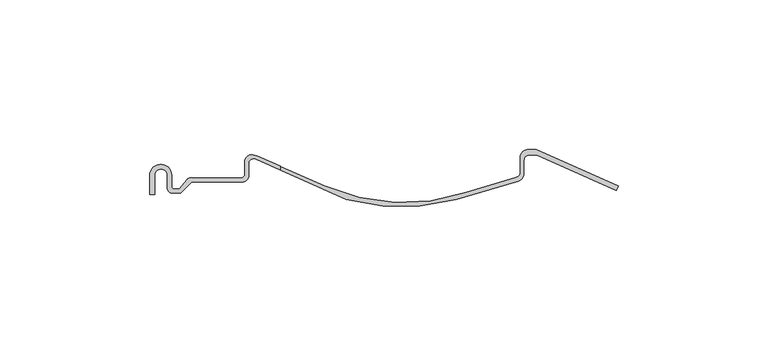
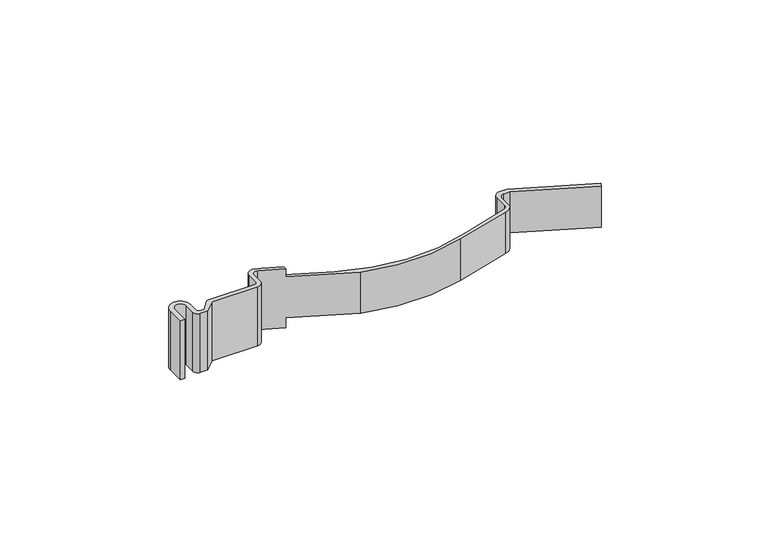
"""IFC4 building model written with IfcOpenShell, lengths in millimetres: cable carrier fitting geometry, BAKS_SUB_KS_CONN_Snap-In Connector with lock_ZLSN : ZLSN."""

import ifcopenshell
import ifcopenshell.guid

model = None  # the IFC model being written
_history = None  # IfcOwnerHistory: only IFC2X3 demands one
_inside = {}  # id of a spatial element -> (the spatial element, [elements in it])
_under = {}  # id of a project, library or spatial element -> (it, [spatial elements below it])
_declared = {}  # id of a project -> (the project, [libraries it declares])
_typed = {}  # id of a type object -> (the type object, [elements of that type])
_made_of = {}  # id of a material, layer set ... -> (it, [elements and type objects made of it])


def new_model(schema):
    """Start an empty IFC model of exactly this schema.

    Asked for "IFC4X3", IfcOpenShell would pick the latest addendum, in which some entities
    have other attributes; the version numbers below select the first issue.
    IFC2X3 requires an IfcOwnerHistory on every rooted entity: one is made here for all.
    """
    global model, _history
    if schema == "IFC4X3":
        model = ifcopenshell.file(schema_version=(4, 3, 0, 0))
    else:
        model = ifcopenshell.file(schema=schema)
    _inside.clear()
    _under.clear()
    _declared.clear()
    _typed.clear()
    _made_of.clear()
    _history = None
    if model.schema == "IFC2X3":
        org = make("IfcOrganization", Name="unknown")
        user = make(
            "IfcPersonAndOrganization",
            ThePerson=make("IfcPerson", FamilyName="unknown"),
            TheOrganization=org,
        )
        app = make(
            "IfcApplication",
            ApplicationDeveloper=org,
            Version="unknown",
            ApplicationFullName="unknown",
            ApplicationIdentifier="unknown",
        )
        _history = make(
            "IfcOwnerHistory",
            OwningUser=user,
            OwningApplication=app,
            ChangeAction="ADDED",
            CreationDate=0,
        )
    return model


def make(cls, **values):
    """One entity of the class cls with the attributes given. An attribute that is None is left unset."""
    return model.create_entity(
        cls, **{name: value for name, value in values.items() if value is not None}
    )


def rooted(cls, **values):
    """An entity with a GlobalId (a new one), such as an element, a storey or a relation."""
    return make(cls, GlobalId=ifcopenshell.guid.new(), OwnerHistory=_history, **values)


def si_unit(unit_type, name, prefix=None):
    """IfcSIUnit, for example si_unit("LENGTHUNIT", "METRE", prefix="MILLI")."""
    return make("IfcSIUnit", UnitType=unit_type, Prefix=prefix, Name=name)


def assignment(units):
    """IfcUnitAssignment: the units of a project."""
    return None if units is None else make("IfcUnitAssignment", Units=units)


def point(xyz):
    """IfcCartesianPoint."""
    return None if xyz is None else make("IfcCartesianPoint", Coordinates=xyz)


def direction(xyz):
    """IfcDirection."""
    return None if xyz is None else make("IfcDirection", DirectionRatios=xyz)


def frame(location, z_axis=None, x_axis=None):
    """IfcAxis2Placement3D, a coordinate frame: its origin and axes. An axis left out is left unset."""
    return make(
        "IfcAxis2Placement3D",
        Location=point(location),
        Axis=direction(z_axis),
        RefDirection=direction(x_axis),
    )


def origin():
    """The frame at (0, 0, 0) with its axes left unset."""
    return frame((0.0, 0.0, 0.0))


def place(relative_to, where):
    """IfcLocalPlacement: puts the frame where relative to a parent placement (None: the world)."""
    return make(
        "IfcLocalPlacement", PlacementRelTo=relative_to, RelativePlacement=where
    )


def context(
    kind, dimensions, precision=None, world=None, true_north=None, identifier=None
):
    """IfcGeometricRepresentationContext, for example the 3D "Model" context."""
    return make(
        "IfcGeometricRepresentationContext",
        ContextIdentifier=identifier,
        ContextType=kind,
        CoordinateSpaceDimension=dimensions,
        Precision=precision,
        WorldCoordinateSystem=world,
        TrueNorth=true_north,
    )


def project(units=None, contexts=None):
    """IfcProject with its units and contexts."""
    return rooted(
        "IfcProject",
        Name="project",
        RepresentationContexts=contexts,
        UnitsInContext=assignment(units),
    )


def spatial(cls, under=None, at=None, **own):
    """A site, building, storey or space (cls), placed at a placement, below another one or the project."""
    s = rooted(cls, ObjectPlacement=at, **own)
    if under is not None:
        _under.setdefault(under.id(), (under, []))[1].append(s)
    return s


def polyline(points):
    """IfcPolyline through the points."""
    return make("IfcPolyline", Points=[point(p) for p in points])


def circle_curve(where, radius):
    """IfcCircle in the frame where."""
    return make("IfcCircle", Position=where, Radius=radius)


def shape(context_of_items, identifier, shape_type, items):
    """IfcShapeRepresentation: the items that make up one representation, for example the "Body"."""
    return make(
        "IfcShapeRepresentation",
        ContextOfItems=context_of_items,
        RepresentationIdentifier=identifier,
        RepresentationType=shape_type,
        Items=items,
    )


def source(mapping_origin, context_of_items, identifier, shape_type, items):
    """IfcRepresentationMap: a shape defined once, which mapped items show again and again."""
    return make(
        "IfcRepresentationMap",
        MappingOrigin=mapping_origin,
        MappedRepresentation=shape(context_of_items, identifier, shape_type, items),
    )


def transform(
    local_origin,
    x_axis=None,
    y_axis=None,
    z_axis=None,
    scale=None,
    scale2=None,
    scale3=None,
    uniform=True,
):
    """IfcCartesianTransformationOperator3D, or its non-uniform kind. x_axis, y_axis, z_axis: its Axis1, 2, 3."""
    if uniform:
        return make(
            "IfcCartesianTransformationOperator3D",
            Axis1=direction(x_axis),
            Axis2=direction(y_axis),
            LocalOrigin=point(local_origin),
            Scale=scale,
            Axis3=direction(z_axis),
        )
    return make(
        "IfcCartesianTransformationOperator3DnonUniform",
        Axis1=direction(x_axis),
        Axis2=direction(y_axis),
        LocalOrigin=point(local_origin),
        Scale=scale,
        Axis3=direction(z_axis),
        Scale2=scale2,
        Scale3=scale3,
    )


def mapped(mapping_source, mapping_target):
    """IfcMappedItem: shows the shape of a source again, moved by a transform."""
    return make(
        "IfcMappedItem", MappingSource=mapping_source, MappingTarget=mapping_target
    )


def made_of(thing, what):
    """Note that an element or type object is made of a material, layer set ...; save() writes the relation."""
    if what is not None:
        _made_of.setdefault(what.id(), (what, []))[1].append(thing)
    return thing


def element(
    cls,
    number,
    at=None,
    inside=None,
    cuts=None,
    type_object=None,
    material=None,
    context=None,
    identifier="Body",
    shape_type=None,
    held_by="IfcProductDefinitionShape",
    body=None,
    shapes=None,
    **own,
):
    """One element of the class cls, such as IfcWall. Its Tag is "e" and its number.

    at: its placement. inside: the storey or other place that contains it. cuts: it is an
    opening in that element (IfcRelVoidsElement). A single representation is given by context,
    identifier, shape_type and body (its items); several are given by shapes. held_by: the class
    of the entity that holds the representations. save() writes the other relations.
    """
    e = rooted(cls, Tag="e%d" % number, ObjectPlacement=at, **own)
    if body is not None:
        shapes = [shape(context, identifier, shape_type, body)]
    if shapes is not None:
        e.Representation = make(held_by, Representations=shapes)
    if inside is not None:
        _inside.setdefault(inside.id(), (inside, []))[1].append(e)
    if cuts is not None:
        rooted(
            "IfcRelVoidsElement", RelatingBuildingElement=cuts, RelatedOpeningElement=e
        )
    if type_object is not None:
        _typed.setdefault(type_object.id(), (type_object, []))[1].append(e)
    return made_of(e, material)


def aggregate(whole, parts):
    """IfcRelAggregates: a whole, such as a stair, and the parts it consists of."""
    return rooted("IfcRelAggregates", RelatingObject=whole, RelatedObjects=parts)


def save(model, path):
    """Write the relations noted so far, then the file.

    IfcRelAggregates (storeys below a building ...), IfcRelContainedInSpatialStructure (elements
    in a storey), IfcRelDefinesByType, IfcRelAssociatesMaterial and IfcRelDeclares: one each for
    every whole, place, type object, material and project.
    """
    for whole, parts in _under.values():
        aggregate(whole, parts)
    for where, things in _inside.values():
        rooted(
            "IfcRelContainedInSpatialStructure",
            RelatedElements=things,
            RelatingStructure=where,
        )
    for kind, things in _typed.values():
        rooted("IfcRelDefinesByType", RelatedObjects=things, RelatingType=kind)
    for what, things in _made_of.values():
        rooted("IfcRelAssociatesMaterial", RelatedObjects=things, RelatingMaterial=what)
    for by, libraries in _declared.values():
        rooted("IfcRelDeclares", RelatingContext=by, RelatedDefinitions=libraries)
    model.write(path)


def plane_surface(at):
    """IfcPlane: the flat surface through the origin of the frame at, square to its z axis."""
    return make("IfcPlane", Position=at)


def cylinder_surface(at, radius):
    """IfcCylindricalSurface: all points at the distance radius from the z axis of the frame at."""
    return make("IfcCylindricalSurface", Position=at, Radius=radius)


def revolved_surface(curve, axis_point, axis_direction):
    """IfcSurfaceOfRevolution: the curve turned about the line through axis_point along axis_direction."""
    return make(
        "IfcSurfaceOfRevolution",
        SweptCurve=make("IfcArbitraryOpenProfileDef", ProfileType="CURVE", Curve=curve),
        AxisPosition=make("IfcAxis1Placement", Location=point(axis_point), Axis=direction(axis_direction)),
    )


def advanced_brep(points, edges, surfaces, faces):
    """IfcAdvancedBrep: a solid bounded by faces that lie on surfaces and meet in shared edges.

    An edge is (start, end): straight between two places in points (the first is 0);
    or (start, end, curve); or (start, end, curve, False) where it runs against its curve.
    A face is (place in surfaces, loops), or (place, loops, False) where it looks against
    its surface's normal. A loop lists edges by number (the first is 1), with a minus sign
    where the edge is run from its end to its start. The first loop is the outer one.
    """
    corners = [point(p) for p in points]
    vertices = [make("IfcVertexPoint", VertexGeometry=c) for c in corners]
    made = []
    for start, end, *more in edges:
        made.append(
            make(
                "IfcEdgeCurve",
                EdgeStart=vertices[start],
                EdgeEnd=vertices[end],
                EdgeGeometry=more[0] if more else make("IfcPolyline", Points=[corners[start], corners[end]]),
                SameSense=more[1] if len(more) > 1 else True,
            )
        )
    hull = []
    for where, loops, *sense in faces:
        bounds = []
        for j, loop in enumerate(loops):
            ring = [make("IfcOrientedEdge", EdgeElement=made[abs(k) - 1], Orientation=k > 0) for k in loop]
            bounds.append(
                make(
                    "IfcFaceOuterBound" if j == 0 else "IfcFaceBound",
                    Bound=make("IfcEdgeLoop", EdgeList=ring),
                    Orientation=True,
                )
            )
        hull.append(make("IfcAdvancedFace", Bounds=bounds, FaceSurface=surfaces[where], SameSense=sense[0] if sense else True))
    return make("IfcAdvancedBrep", Outer=make("IfcClosedShell", CfsFaces=hull))


def cable_carrier_fitting_d8d59c14(model_context):
    return source(origin(), model_context, "Body", "AdvancedBrep", [
        advanced_brep(
        [(-16.2774234, 0.0, 23.0), (-16.2774234, -6.4382348, 23.0), (-14.5784096, -6.4382348, 23.0), (-14.5784096, 0.0, 23.0), (-10.3961789, 0.0, 23.0), (-10.3961789, -4.1822307, 23.0), (-8.6233423, -5.9550673, 23.0), (-5.8416797, -5.9550673, 23.0), (-2.1716987, -2.2850863, 23.0), (14.5546679, -2.2850863, 23.0), (16.8397542, 0.0, 23.0), (16.8397542, 4.1437746, 23.0), (19.1421404, 5.4730579, 23.0), (27.3907936, 1.8005209, 23.0), (27.3907936, 3.0539849, 23.0), (20.816871, 5.9808838, 23.0), (18.4093307, 6.8571568, 23.0), (15.4425675, 4.4547194, 23.0), (15.4425675, 0.0, 23.0), (14.2746658, -0.8177736, 23.0), (-2.0, -0.8177736, 23.0), (-3.9340293, -1.5217027, 23.0), (-6.3698528, -4.5296943, 23.0), (-8.1099927, -4.5296943, 23.0), (-8.8958623, -3.7438247, 23.0), (-8.8958623, 0.0, 23.0), (-16.2774234, 0.0, 0.0), (-8.8958623, 0.0, 0.0), (-8.8958623, -3.7438247, 0.0), (-8.1099927, -4.5296943, 0.0), (-6.3698528, -4.5296943, 0.0), (-3.9340293, -1.5217027, 0.0), (-2.0, -0.8177736, 0.0), (14.2746658, -0.8177736, 0.0), (15.4425675, 0.0, 0.0), (15.4425675, 4.4547194, 0.0), (18.4093307, 6.8571568, 0.0), (20.816871, 5.9808838, 0.0), (27.3907936, 3.0539849, 0.0), (27.3907936, 1.8005209, 0.0), (19.1421404, 5.4730579, 0.0), (16.8397542, 4.1437746, 0.0), (16.8397542, 0.0, 0.0), (14.5546679, -2.2850863, 0.0), (-2.1716987, -2.2850863, 0.0), (-5.8416797, -5.9550673, 0.0), (-8.6233423, -5.9550673, 0.0), (-10.3961789, -4.1822307, 0.0), (-10.3961789, 0.0, 0.0), (-14.5784096, 0.0, 0.0), (-14.5784096, -6.4382348, 0.0), (-16.2774234, -6.4382348, 0.0), (27.3907936, 3.0539849, 20.0), (42.3105217, -3.588706, 20.0), (42.3105217, -3.588706, 4.0), (27.3907936, 3.0539849, 4.0), (89.2907665, -5.7499431, 20.0), (89.2907665, -5.7499431, 4.0), (106.0239398, -0.6340987, 20.0), (106.0239398, -0.6340987, 4.0), (107.5376936, 0.8796552, 20.0), (107.5376936, 0.8796552, 4.0), (107.5376936, 5.8796552, 20.0), (107.5376936, 5.8796552, 4.0), (111.0313468, 8.6091962, 20.0), (111.0313468, 8.6091962, 4.0), (112.9468571, 8.6091962, 20.0), (112.9468571, 8.6091962, 4.0), (140.3532208, -3.5929031, 20.0), (140.3532208, -3.5929031, 4.0), (139.6834326, -5.0972722, 20.0), (139.6834326, -5.0972722, 4.0), (113.0175646, 6.7751372, 20.0), (113.0175646, 6.7751372, 4.0), (110.5224489, 6.7751372, 20.0), (110.5224489, 6.7751372, 4.0), (108.7935168, 5.046205, 20.0), (108.7935168, 5.046205, 4.0), (108.7935168, 0.0, 20.0), (108.7935168, 0.0, 4.0), (106.1107616, -2.2510989, 20.0), (106.1107616, -2.2510989, 4.0), (86.1480477, -7.975315, 20.0), (86.1480477, -7.975315, 4.0), (49.3476804, -7.975315, 20.0), (49.3476804, -7.975315, 4.0), (27.3907936, 1.8005209, 4.0), (27.3907936, 1.8005209, 20.0)],
        [
            (0, 1),
            (1, 2),
            (2, 3),
            (3, 4, circle_curve(frame((-12.4872942, 0.0, 23.0), z_axis=(0.0, 0.0, -1.0), x_axis=(1.0, 0.0, 0.0)), 2.0911154)),
            (4, 5),
            (5, 6, circle_curve(frame((-8.6233423, -4.1822307, 23.0), z_axis=(0.0, 0.0, 1.0), x_axis=(1.0, 0.0, 0.0)), 1.7728365)),
            (6, 7),
            (7, 8),
            (8, 9),
            (9, 10, circle_curve(frame((14.5546679, 0.0, 23.0), z_axis=(0.0, 0.0, 1.0), x_axis=(1.0, 0.0, 0.0)), 2.2850863)),
            (10, 11),
            (11, 12, circle_curve(frame((18.4738377, 3.9720255, 23.0), z_axis=(0.0, 0.0, -1.0), x_axis=(1.0, 0.0, 0.0)), 1.6430845)),
            (12, 13),
            (13, 14),
            (14, 15),
            (15, 16, circle_curve(frame((16.4955977, -2.1462494, 23.0), z_axis=(0.0, 0.0, 1.0), x_axis=(1.0, 0.0, 0.0)), 9.2045477)),
            (16, 17, circle_curve(frame((17.8986769, 4.4547194, 23.0), z_axis=(0.0, 0.0, 1.0), x_axis=(1.0, 0.0, 0.0)), 2.4561094)),
            (17, 18),
            (18, 19, circle_curve(frame((14.2746658, 0.4250815, 23.0), z_axis=(0.0, 0.0, -1.0), x_axis=(1.0, 0.0, 0.0)), 1.2428551)),
            (19, 20),
            (20, 21, circle_curve(frame((-2.3812473, -2.7791207, 23.0), z_axis=(0.0, 0.0, 1.0), x_axis=(1.0, 0.0, 0.0)), 1.9980571)),
            (21, 22),
            (22, 23),
            (23, 24, circle_curve(frame((-8.1099927, -3.7438247, 23.0), z_axis=(0.0, 0.0, -1.0), x_axis=(1.0, 0.0, 0.0)), 0.7858696)),
            (24, 25),
            (25, 0, circle_curve(frame((-12.5866428, 0.0, 23.0), z_axis=(0.0, 0.0, 1.0), x_axis=(1.0, 0.0, 0.0)), 3.6907805)),
            (26, 27, circle_curve(frame((-12.5866428, 0.0, 0.0), z_axis=(0.0, 0.0, -1.0), x_axis=(1.0, 0.0, 0.0)), 3.6907805)),
            (27, 28),
            (28, 29, circle_curve(frame((-8.1099927, -3.7438247, 0.0), z_axis=(0.0, 0.0, 1.0), x_axis=(1.0, 0.0, 0.0)), 0.7858696)),
            (29, 30),
            (30, 31),
            (31, 32, circle_curve(frame((-2.3812473, -2.7791207, 0.0), z_axis=(0.0, 0.0, -1.0), x_axis=(1.0, 0.0, 0.0)), 1.9980571)),
            (32, 33),
            (33, 34, circle_curve(frame((14.2746658, 0.4250815, 0.0), z_axis=(0.0, 0.0, 1.0), x_axis=(1.0, 0.0, 0.0)), 1.2428551)),
            (34, 35),
            (35, 36, circle_curve(frame((17.8986769, 4.4547194, 0.0), z_axis=(0.0, 0.0, -1.0), x_axis=(1.0, 0.0, 0.0)), 2.4561094)),
            (36, 37, circle_curve(frame((16.4955977, -2.1462494, 0.0), z_axis=(0.0, 0.0, -1.0), x_axis=(1.0, 0.0, 0.0)), 9.2045477)),
            (37, 38),
            (38, 39),
            (39, 40),
            (40, 41, circle_curve(frame((18.4738377, 3.9720255, 0.0), z_axis=(0.0, 0.0, 1.0), x_axis=(1.0, 0.0, 0.0)), 1.6430845)),
            (41, 42),
            (42, 43, circle_curve(frame((14.5546679, 0.0, 0.0), z_axis=(0.0, 0.0, -1.0), x_axis=(1.0, 0.0, 0.0)), 2.2850863)),
            (43, 44),
            (44, 45),
            (45, 46),
            (46, 47, circle_curve(frame((-8.6233423, -4.1822307, 0.0), z_axis=(0.0, 0.0, -1.0), x_axis=(1.0, 0.0, 0.0)), 1.7728365)),
            (47, 48),
            (48, 49, circle_curve(frame((-12.4872942, 0.0, 0.0), z_axis=(0.0, 0.0, 1.0), x_axis=(1.0, 0.0, 0.0)), 2.0911154)),
            (49, 50),
            (50, 51),
            (51, 26),
            (25, 27),
            (26, 0),
            (24, 28),
            (23, 29),
            (22, 30),
            (21, 31),
            (20, 32),
            (19, 33),
            (18, 34),
            (17, 35),
            (16, 36),
            (15, 37),
            (14, 52),
            (52, 53),
            (53, 54),
            (54, 55),
            (55, 38),
            (53, 56, circle_curve(frame((68.5628712, 55.3750364, 20.0), z_axis=(0.0, 0.0, 1.0), x_axis=(1.0, 0.0, 0.0)), 64.5438515)),
            (56, 57),
            (57, 54, circle_curve(frame((68.5628712, 55.3750364, 4.0), z_axis=(0.0, 0.0, -1.0), x_axis=(1.0, 0.0, 0.0)), 64.5438515)),
            (56, 58),
            (58, 59),
            (59, 57),
            (58, 60, circle_curve(frame((106.0239398, 0.8796552, 20.0), z_axis=(0.0, 0.0, 1.0), x_axis=(1.0, 0.0, 0.0)), 1.5137539)),
            (60, 61),
            (61, 59, circle_curve(frame((106.0239398, 0.8796552, 4.0), z_axis=(0.0, 0.0, -1.0), x_axis=(1.0, 0.0, 0.0)), 1.5137539)),
            (60, 62),
            (62, 63),
            (63, 61),
            (62, 64, circle_curve(frame((110.3507958, 5.8796552, 20.0), z_axis=(0.0, 0.0, -1.0), x_axis=(1.0, 0.0, 0.0)), 2.8131022)),
            (64, 65),
            (65, 63, circle_curve(frame((110.3507958, 5.8796552, 4.0), z_axis=(0.0, 0.0, 1.0), x_axis=(1.0, 0.0, 0.0)), 2.8131022)),
            (64, 66),
            (66, 67),
            (67, 65),
            (66, 68),
            (68, 69),
            (69, 67),
            (68, 70),
            (70, 71),
            (71, 69),
            (70, 72),
            (72, 73),
            (73, 71),
            (72, 74),
            (74, 75),
            (75, 73),
            (74, 76, circle_curve(frame((110.5224489, 5.046205, 20.0), z_axis=(0.0, 0.0, 1.0), x_axis=(1.0, 0.0, 0.0)), 1.7289322)),
            (76, 77),
            (77, 75, circle_curve(frame((110.5224489, 5.046205, 4.0), z_axis=(0.0, 0.0, -1.0), x_axis=(1.0, 0.0, 0.0)), 1.7289322)),
            (76, 78),
            (78, 79),
            (79, 77),
            (78, 80, circle_curve(frame((105.2532157, 1.4950256, 20.0), z_axis=(0.0, 0.0, -1.0), x_axis=(1.0, 0.0, 0.0)), 3.843024)),
            (80, 81),
            (81, 79, circle_curve(frame((105.2532157, 1.4950256, 4.0), z_axis=(0.0, 0.0, 1.0), x_axis=(1.0, 0.0, 0.0)), 3.843024)),
            (80, 82),
            (82, 83),
            (83, 81),
            (82, 84, circle_curve(frame((67.747864, 56.1937513, 20.0), z_axis=(0.0, 0.0, -1.0), x_axis=(1.0, 0.0, 0.0)), 66.7550434)),
            (84, 85),
            (85, 83, circle_curve(frame((67.747864, 56.1937513, 4.0), z_axis=(0.0, 0.0, 1.0), x_axis=(1.0, 0.0, 0.0)), 66.7550434)),
            (39, 86),
            (86, 85),
            (84, 87),
            (87, 13),
            (12, 40),
            (11, 41),
            (10, 42),
            (9, 43),
            (8, 44),
            (7, 45),
            (6, 46),
            (5, 47),
            (4, 48),
            (3, 49),
            (2, 50),
            (1, 51),
            (87, 52),
            (86, 55),
        ],
        [
            plane_surface(frame((-8.8958623, 0.0, 23.0), z_axis=(0.0, 0.0, 1.0), x_axis=(0.0, -1.0, 0.0))),
            plane_surface(frame((-8.8958623, 0.0, 0.0), z_axis=(0.0, 0.0, -1.0), x_axis=(0.0, 1.0, 0.0))),
            cylinder_surface(frame((-12.5866428, 0.0, 0.0), z_axis=(0.0, 0.0, 1.0), x_axis=(1.0, 0.0, 0.0)), 3.6907805),
            plane_surface(frame((-8.8958623, 0.0, 23.0), z_axis=(1.0, 0.0, 0.0), x_axis=(0.0, 0.0, -1.0))),
            revolved_surface(polyline([(-7.3241230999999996, -3.7438247, 0.0), (-7.3241230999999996, -3.7438247, 23.0)]), (-8.1099927, -3.7438247, 0.0), (0.0, 0.0, -1.0)),
            plane_surface(frame((-8.1099927, -4.5296943, 23.0), z_axis=(0.0, 1.0, 0.0), x_axis=(0.0, 0.0, -1.0))),
            plane_surface(frame((-6.3698528, -4.5296943, 23.0), z_axis=(-0.7771459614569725, 0.6293203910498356, 0.0), x_axis=(0.0, 0.0, -1.0))),
            cylinder_surface(frame((-2.3812473, -2.7791207, 0.0), z_axis=(0.0, 0.0, 1.0), x_axis=(1.0, 0.0, 0.0)), 1.9980571),
            plane_surface(frame((-2.0, -0.8177736, 23.0), z_axis=(0.0, 1.0, 0.0), x_axis=(0.0, 0.0, -1.0))),
            revolved_surface(polyline([(15.5175209, 0.4250815, 0.0), (15.5175209, 0.4250815, 23.0)]), (14.2746658, 0.4250815, 0.0), (0.0, 0.0, -1.0)),
            plane_surface(frame((15.4425675, 0.0, 23.0), z_axis=(-1.0, 0.0, 0.0), x_axis=(0.0, 0.0, -1.0))),
            cylinder_surface(frame((17.8986769, 4.4547194, 0.0), z_axis=(0.0, 0.0, 1.0), x_axis=(1.0, 0.0, 0.0)), 2.4561094),
            cylinder_surface(frame((16.4955977, -2.1462494, 0.0), z_axis=(0.0, 0.0, 1.0), x_axis=(1.0, 0.0, 0.0)), 9.2045477),
            plane_surface(frame((20.816871, 5.9808838, 23.0), z_axis=(0.4067366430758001, 0.9135454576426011, 0.0), x_axis=(0.0, 0.0, -1.0))),
            revolved_surface(polyline([(133.1067227, 55.3750364, 4.0), (133.1067227, 55.3750364, 20.0)]), (68.5628712, 55.3750364, 0.0), (0.0, 0.0, -1.0)),
            plane_surface(frame((89.2907665, -5.7499431, 23.0), z_axis=(-0.2923717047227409, 0.9563047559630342, 0.0), x_axis=(0.0, 0.0, -1.0))),
            revolved_surface(polyline([(107.53769369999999, 0.8796552, 4.0), (107.53769369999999, 0.8796552, 20.0)]), (106.0239398, 0.8796552, 0.0), (0.0, 0.0, -1.0)),
            plane_surface(frame((107.5376936, 0.8796552, 23.0), z_axis=(-1.0, 0.0, 0.0), x_axis=(0.0, 0.0, -1.0))),
            cylinder_surface(frame((110.3507958, 5.8796552, 0.0), z_axis=(0.0, 0.0, 1.0), x_axis=(1.0, 0.0, 0.0)), 2.8131022),
            plane_surface(frame((111.0313468, 8.6091962, 23.0), z_axis=(0.0, 1.0, 0.0), x_axis=(0.0, 0.0, -1.0))),
            plane_surface(frame((112.9468571, 8.6091962, 23.0), z_axis=(0.4067366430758, 0.9135454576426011, 0.0), x_axis=(0.0, 0.0, -1.0))),
            plane_surface(frame((140.3532208, -3.5929031, 23.0), z_axis=(0.9135454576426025, -0.40673664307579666, 0.0), x_axis=(0.0, 0.0, -1.0))),
            plane_surface(frame((139.6834326, -5.0972722, 23.0), z_axis=(-0.4067366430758, -0.9135454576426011, 0.0), x_axis=(0.0, 0.0, -1.0))),
            plane_surface(frame((113.0175646, 6.7751372, 23.0), z_axis=(0.0, -1.0, 0.0), x_axis=(0.0, 0.0, -1.0))),
            revolved_surface(polyline([(112.2513811, 5.046205, 4.0), (112.2513811, 5.046205, 20.0)]), (110.5224489, 5.046205, 0.0), (0.0, 0.0, -1.0)),
            plane_surface(frame((108.7935168, 5.046205, 23.0), z_axis=(1.0, 0.0, 0.0), x_axis=(0.0, 0.0, -1.0))),
            cylinder_surface(frame((105.2532157, 1.4950256, 0.0), z_axis=(0.0, 0.0, 1.0), x_axis=(1.0, 0.0, 0.0)), 3.843024),
            plane_surface(frame((106.1107616, -2.2510989, 23.0), z_axis=(0.2756373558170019, -0.9612616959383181, 0.0), x_axis=(0.0, 0.0, -1.0))),
            cylinder_surface(frame((67.747864, 56.1937513, 0.0), z_axis=(0.0, 0.0, 1.0), x_axis=(1.0, 0.0, 0.0)), 66.7550434),
            plane_surface(frame((49.3476804, -7.975315, 23.0), z_axis=(-0.40673664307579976, -0.9135454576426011, 0.0), x_axis=(0.0, 0.0, -1.0))),
            revolved_surface(polyline([(20.1169222, 3.9720255, 0.0), (20.1169222, 3.9720255, 23.0)]), (18.4738377, 3.9720255, 0.0), (0.0, 0.0, -1.0)),
            plane_surface(frame((16.8397542, 4.1437746, 23.0), z_axis=(1.0, 0.0, 0.0), x_axis=(0.0, 0.0, -1.0))),
            cylinder_surface(frame((14.5546679, 0.0, 0.0), z_axis=(0.0, 0.0, 1.0), x_axis=(1.0, 0.0, 0.0)), 2.2850863),
            plane_surface(frame((14.5546679, -2.2850863, 23.0), z_axis=(0.0, -1.0, 0.0), x_axis=(0.0, 0.0, -1.0))),
            plane_surface(frame((-2.1716987, -2.2850863, 23.0), z_axis=(0.7071067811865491, -0.7071067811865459, 0.0), x_axis=(0.0, 0.0, -1.0))),
            plane_surface(frame((-5.8416797, -5.9550673, 23.0), z_axis=(0.0, -1.0, 0.0), x_axis=(0.0, 0.0, -1.0))),
            cylinder_surface(frame((-8.6233423, -4.1822307, 0.0), z_axis=(0.0, 0.0, 1.0), x_axis=(1.0, 0.0, 0.0)), 1.7728365),
            plane_surface(frame((-10.3961789, -4.1822307, 23.0), z_axis=(-1.0, 0.0, 0.0), x_axis=(0.0, 0.0, -1.0))),
            revolved_surface(polyline([(-10.3961788, 0.0, 0.0), (-10.3961788, 0.0, 23.0)]), (-12.4872942, 0.0, 0.0), (0.0, 0.0, -1.0)),
            plane_surface(frame((-14.5784096, 0.0, 23.0), z_axis=(1.0, 0.0, 0.0), x_axis=(0.0, 0.0, -1.0))),
            plane_surface(frame((-14.5784096, -6.4382348, 23.0), z_axis=(0.0, -1.0, 0.0), x_axis=(0.0, 0.0, -1.0))),
            plane_surface(frame((-16.2774234, -6.4382348, 23.0), z_axis=(-1.0, 0.0, 0.0), x_axis=(0.0, 0.0, -1.0))),
            plane_surface(frame((27.3907936, 24.7248921, 23.0), z_axis=(1.0, 0.0, 0.0), x_axis=(0.0, -1.0, 0.0))),
            plane_surface(frame((27.3907936, 24.7248921, 20.0), z_axis=(0.0, 0.0, 1.0), x_axis=(0.0, -1.0, 0.0))),
            plane_surface(frame((141.4279866, 24.7248921, 4.0), z_axis=(0.0, 0.0, -1.0), x_axis=(0.0, -1.0, 0.0))),
            plane_surface(frame((27.3907936, 24.7248921, 4.0), z_axis=(1.0, 0.0, 0.0), x_axis=(0.0, -1.0, 0.0))),
        ],
        [
            (0, [[1, 2, 3, 4, 5, 6, 7, 8, 9, 10, 11, 12, 13, 14, 15, 16, 17, 18, 19, 20, 21, 22, 23, 24, 25, 26]]),
            (1, [[27, 28, 29, 30, 31, 32, 33, 34, 35, 36, 37, 38, 39, 40, 41, 42, 43, 44, 45, 46, 47, 48, 49, 50, 51, 52]]),
            (2, [[53, -27, 54, -26]]),
            (3, [[55, -28, -53, -25]]),
            (4, [[56, -29, -55, -24]]),
            (5, [[57, -30, -56, -23]]),
            (6, [[58, -31, -57, -22]]),
            (7, [[59, -32, -58, -21]]),
            (8, [[60, -33, -59, -20]]),
            (9, [[61, -34, -60, -19]]),
            (10, [[62, -35, -61, -18]]),
            (11, [[63, -36, -62, -17]]),
            (12, [[64, -37, -63, -16]]),
            (13, [[-15, 65, 66, 67, 68, 69, -38, -64]]),
            (14, [[70, 71, 72, -67]]),
            (15, [[73, 74, 75, -71]]),
            (16, [[76, 77, 78, -74]]),
            (17, [[79, 80, 81, -77]]),
            (18, [[82, 83, 84, -80]]),
            (19, [[85, 86, 87, -83]]),
            (20, [[88, 89, 90, -86]]),
            (21, [[91, 92, 93, -89]]),
            (22, [[94, 95, 96, -92]]),
            (23, [[97, 98, 99, -95]]),
            (24, [[100, 101, 102, -98]]),
            (25, [[103, 104, 105, -101]]),
            (26, [[106, 107, 108, -104]]),
            (27, [[109, 110, 111, -107]]),
            (28, [[112, 113, 114, -110]]),
            (29, [[-40, 115, 116, -113, 117, 118, -13, 119]]),
            (30, [[120, -41, -119, -12]]),
            (31, [[121, -42, -120, -11]]),
            (32, [[122, -43, -121, -10]]),
            (33, [[123, -44, -122, -9]]),
            (34, [[124, -45, -123, -8]]),
            (35, [[125, -46, -124, -7]]),
            (36, [[126, -47, -125, -6]]),
            (37, [[127, -48, -126, -5]]),
            (38, [[128, -49, -127, -4]]),
            (39, [[129, -50, -128, -3]]),
            (40, [[130, -51, -129, -2]]),
            (41, [[-54, -52, -130, -1]]),
            (42, [[-65, -14, -118, 131]]),
            (43, [[-117, -112, -109, -106, -103, -100, -97, -94, -91, -88, -85, -82, -79, -76, -73, -70, -66, -131]]),
            (44, [[-68, -72, -75, -78, -81, -84, -87, -90, -93, -96, -99, -102, -105, -108, -111, -114, -116, 132]]),
            (45, [[-115, -39, -69, -132]]),
        ],
    ),
    ])


if __name__ == "__main__":
    model = new_model("IFC4")
    model_context = context("Model", 3, world=origin())
    ifc_project = project(units=[si_unit("LENGTHUNIT", "METRE", prefix="MILLI")], contexts=[model_context])
    site = spatial("IfcSite", under=ifc_project)
    building = spatial("IfcBuilding", under=site)
    placement = place(None, origin())
    cable_carrier_fitting_shape = cable_carrier_fitting_d8d59c14(model_context)
    element("IfcCableCarrierFitting", 1, ObjectType="BAKS_SUB_KS_CONN_Snap-In Connector with lock_ZLSN : ZLSN", at=placement, inside=building, context=model_context, shape_type="MappedRepresentation", body=[
        mapped(cable_carrier_fitting_shape, transform((0.0, 0.0, 0.0), x_axis=(1.0, 0.0, 0.0), y_axis=(0.0, 1.0, 0.0), z_axis=(0.0, 0.0, 1.0))),
    ])
    save(model, "model.ifc")
